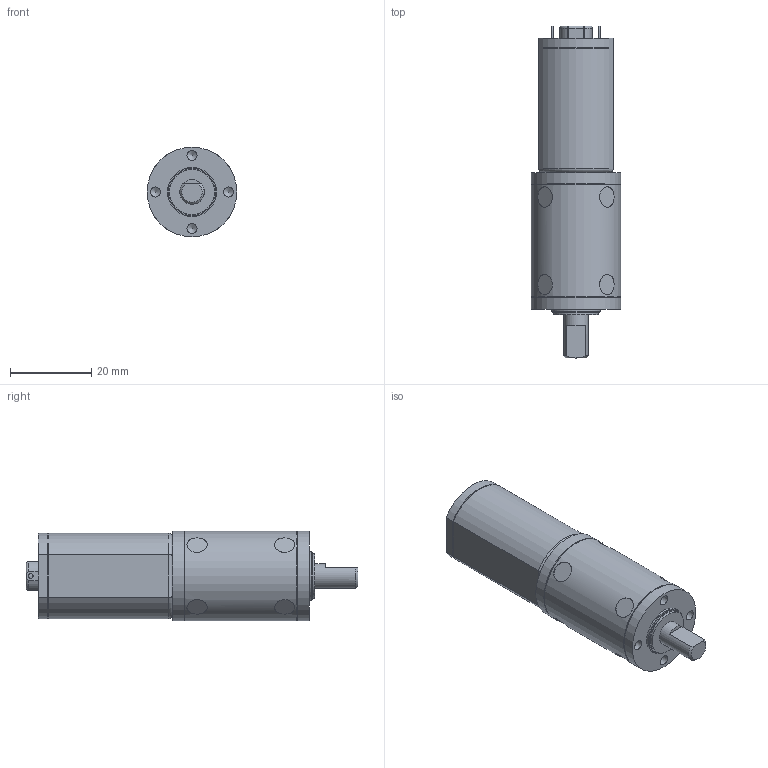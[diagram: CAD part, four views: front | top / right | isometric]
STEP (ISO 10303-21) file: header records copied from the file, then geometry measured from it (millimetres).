
FILE_DESCRIPTION((''),'2;1');
FILE_NAME('C:\Documents and Settings\SSEGAWA\デスクトップ\TP-2133C-KP-4.STP','2013-06-14T17:02:12',('SSEGAWA'),(''),'Autodesk Inventor 2010','Autodesk Inventor 2010','');
FILE_SCHEMA(('CONFIG_CONTROL_DESIGN'));
Length unit declared in the file: millimetre
Products named in the file (3): tp_2133c,d_kp_256~509_s00_12,24; kp_4; tp_2133
Assembly tree (2 placements, depth 2):
  tp_2133c,d_kp_256~509_s00_12,24
    kp_4
    tp_2133
Bounding box: 22 x 81.5 x 22 mm (x, y, z)
Volume: 24017 mm3; surface area: 6472.6 mm2
Topology: 2 solids, 2 shells, 104 faces, 226 edges, 149 vertices
Faces by surface type: plane 39, cylinder 34, bspline 21, torus 5, sphere 4, cone 1
Full cylindrical faces by diameter (mm): 1.2 x1, 2 x1, 5 x4, 6 x1, 6.5 x1, 11 x1, 11.5 x1, 12 x1, 21.6 x2, 22 x3
Entity records: 3203 total; most frequent: CARTESIAN_POINT 1053, DIRECTION 418, ORIENTED_EDGE 350, AXIS2_PLACEMENT_3D 177, EDGE_CURVE 175, EDGE_LOOP 165, VERTEX_POINT 132, FACE_OUTER_BOUND 104
